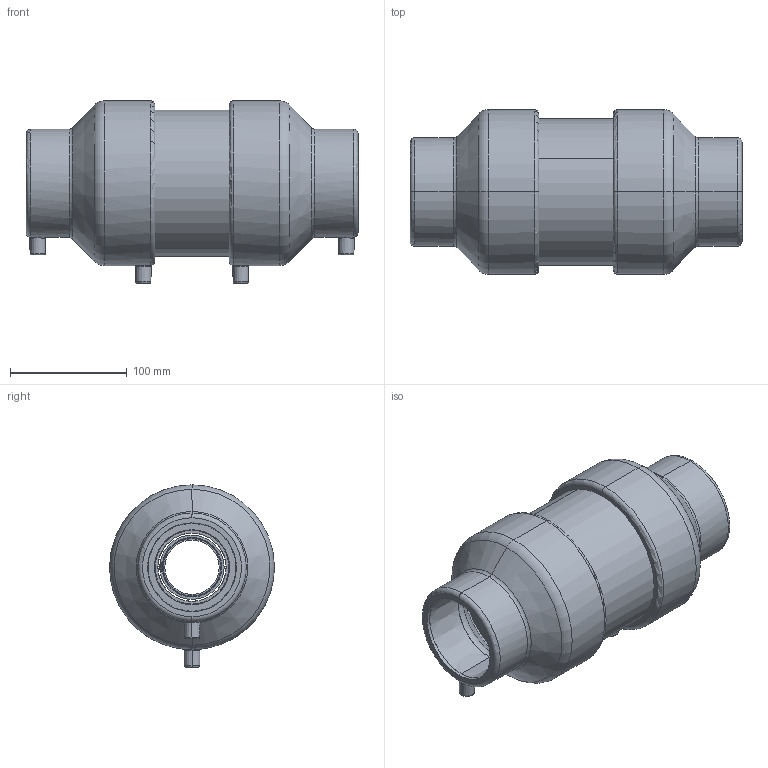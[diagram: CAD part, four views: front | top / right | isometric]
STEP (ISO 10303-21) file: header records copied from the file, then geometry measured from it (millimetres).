
FILE_DESCRIPTION (( 'STEP AP203' ), '1' );
FILE_NAME ('KP_2-125-75SC.step', '2011-08-08T12:06:02', ( '' ), ( '' ), 'SwSTEP 2.0', 'SolidWorks 2011', '' );
FILE_SCHEMA (( 'CONFIG_CONTROL_DESIGN' ));
Length unit declared in the file: millimetre
Products named in the file (1): KP_2-125-75SC
Bounding box: 284.42 x 141.1 x 156.1 mm (x, y, z)
Volume: 1200512.2 mm3; surface area: 372393.4 mm2
Topology: 5 solids, 23 shells, 1858 faces, 5026 edges, 3281 vertices
Faces by surface type: plane 1313, cylinder 230, torus 115, cone 100, bspline 96, sphere 4
Entity records: 65164 total; most frequent: CARTESIAN_POINT 19073, ORIENTED_EDGE 10044, DIRECTION 8768, EDGE_CURVE 5022, VECTOR 3662, LINE 3662, VERTEX_POINT 3281, AXIS2_PLACEMENT_3D 2553
